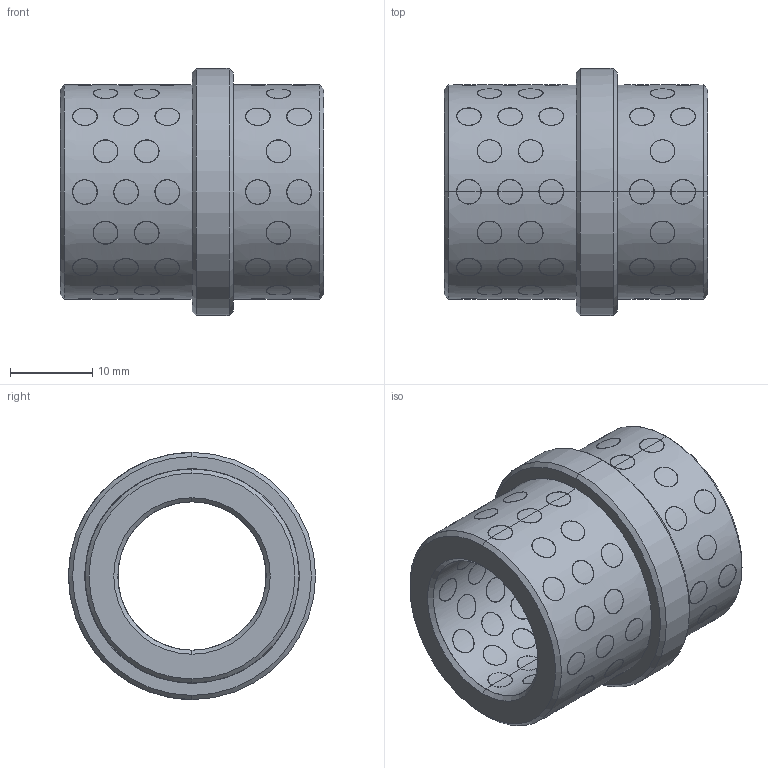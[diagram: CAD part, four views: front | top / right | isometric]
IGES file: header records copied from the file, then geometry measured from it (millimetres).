
Start section: START RECORD GO HERE.
Global section: file name: G4031832.igs; native system: DASSAULT SYSTEMES CATIA V5 R20 - www.3ds.com; preprocessor: CATIA Version 5 Release 20 ; author: r.borello; organization: CFTORINO; date: 20190624.144728; units: millimetre
Bounding box: 32 x 30 x 30 mm (x, y, z)
Surface area: 10032.1 mm2 (no closed solid volume)
Topology: 0 solids, 0 shells, 428 faces, 1872 edges, 1872 vertices
Faces by surface type: revolution 424, plane 4
